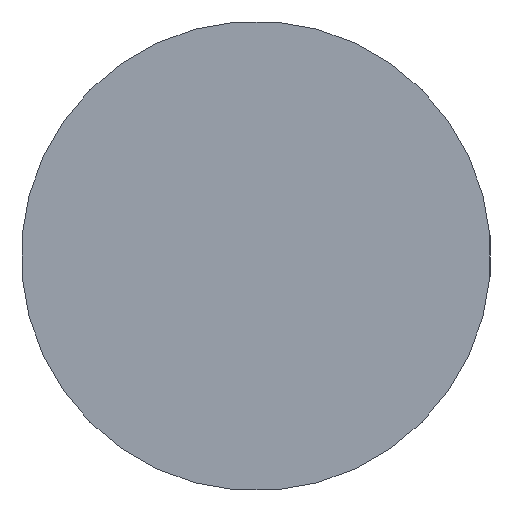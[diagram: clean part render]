
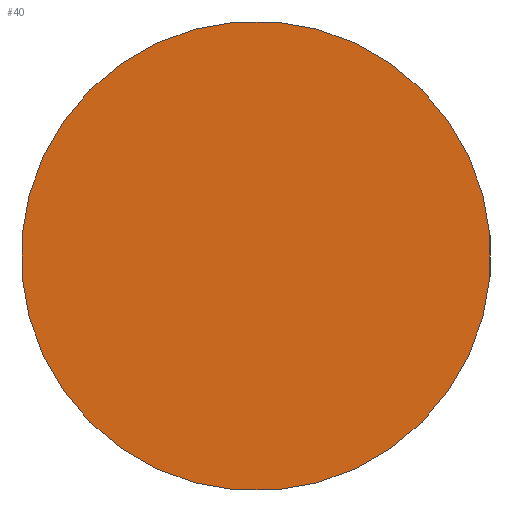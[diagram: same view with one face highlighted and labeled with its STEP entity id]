
A CAD part, front view. The second image highlights one B-rep face of the part: STEP entity #40.
In plain terms, the highlighted planar face has unit normal (0, -1, 0).
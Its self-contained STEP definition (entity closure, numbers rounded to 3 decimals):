
#15=PLANE('',#59);
#18=FACE_OUTER_BOUND('',#21,.T.);
#21=EDGE_LOOP('',(#36));
#26=CIRCLE('',#58,2.);
#28=VERTEX_POINT('',#78);
#31=EDGE_CURVE('',#28,#28,#26,.T.);
#36=ORIENTED_EDGE('',*,*,#31,.T.);
#40=ADVANCED_FACE('',(#18),#15,.T.);
#58=AXIS2_PLACEMENT_3D('',#80,#68,#69);
#59=AXIS2_PLACEMENT_3D('',#81,#70,#71);
#68=DIRECTION('center_axis',(0.,-1.,0.));
#69=DIRECTION('ref_axis',(0.906,0.,0.423));
#70=DIRECTION('center_axis',(0.,-1.,0.));
#71=DIRECTION('ref_axis',(0.906,0.,0.423));
#78=CARTESIAN_POINT('',(-30.605,-360.5,50.225));
#80=CARTESIAN_POINT('Origin',(-28.792,-360.5,51.07));
#81=CARTESIAN_POINT('Origin',(-28.792,-360.5,51.07));
